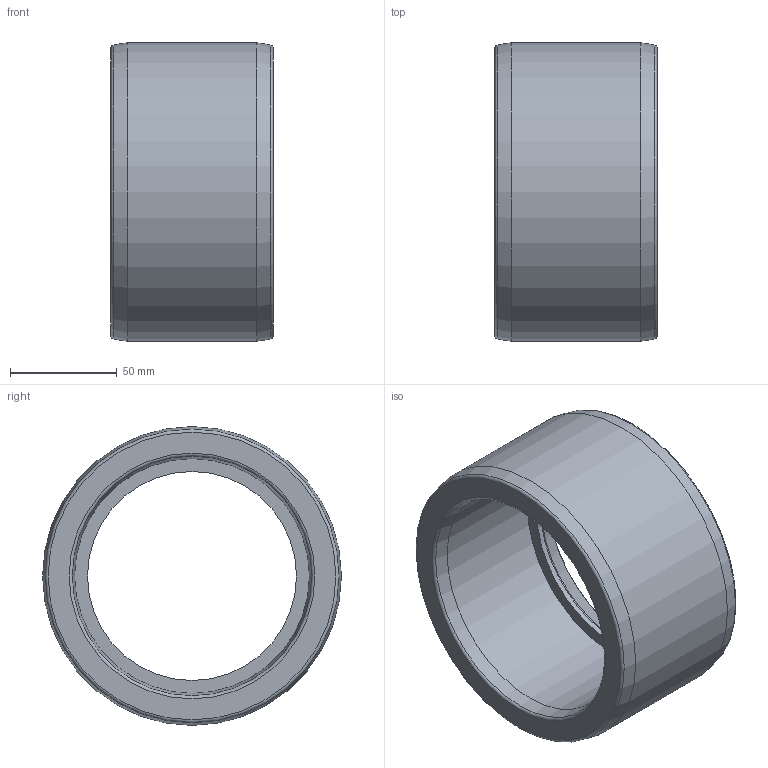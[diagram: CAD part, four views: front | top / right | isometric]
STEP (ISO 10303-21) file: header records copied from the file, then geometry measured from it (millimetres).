
FILE_DESCRIPTION(/* description */ ('PLASSON BUSHING-CEMENT PVC 140-110'),/* implementation_level */ '2;1');
FILE_NAME(/* name */ 'C:\Dropbox\KIMPROJECTS-Inventor\99-16-3568-Processing\PVC Catalog 2017\050900\050900140110.ipt.stp',/* time_stamp */ '2017-12-07T15:59:40+02:00',/* author */ ('KIM'),/* organization */ (''),/* preprocessor_version */ 'ST-DEVELOPER v15.6',/* originating_system */ 'Autodesk Inventor 2015',/* authorisation */ '');
FILE_SCHEMA (('AUTOMOTIVE_DESIGN { 1 0 10303 214 3 1 1 }'));
Length unit declared in the file: millimetre
Products named in the file (1): 050900140110
Bounding box: 76 x 140 x 140 mm (x, y, z)
Volume: 454017.5 mm3; surface area: 71138.5 mm2
Topology: 1 solids, 1 shells, 15 faces, 27 edges, 15 vertices
Faces by surface type: torus 5, cone 4, cylinder 3, plane 3
Full cylindrical faces by diameter (mm): 97.9 x1, 110 x1, 140 x1
Entity records: 332 total; most frequent: DIRECTION 62, CARTESIAN_POINT 46, AXIS2_PLACEMENT_3D 31, EDGE_LOOP 30, ORIENTED_EDGE 30, FACE_BOUND 15, FACE_OUTER_BOUND 15, CIRCLE 15
